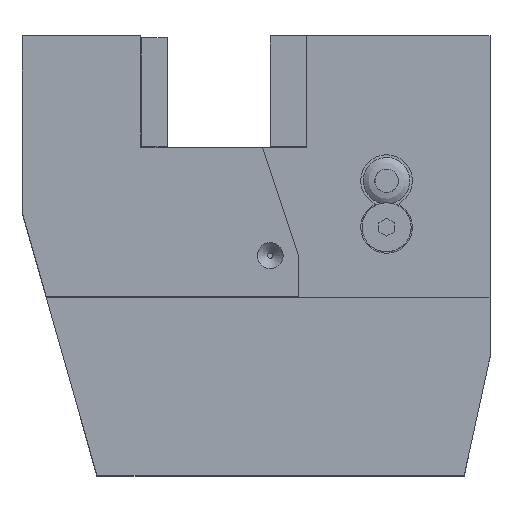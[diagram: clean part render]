
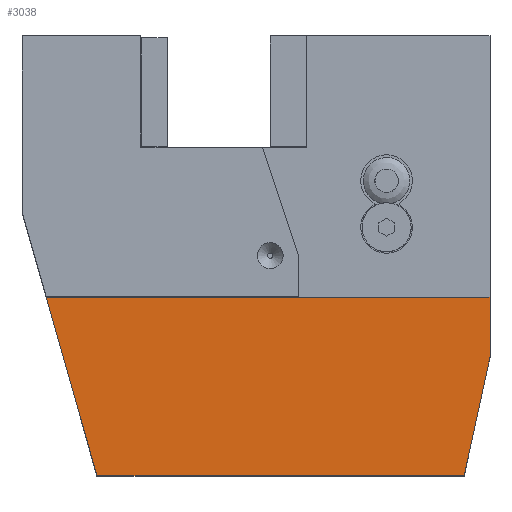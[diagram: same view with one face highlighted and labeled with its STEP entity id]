
A CAD part, top view. The second image highlights one B-rep face of the part: STEP entity #3038.
In plain terms, the highlighted planar face has unit normal (0, 0, 1).
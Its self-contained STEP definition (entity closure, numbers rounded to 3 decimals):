
#206=PLANE('',#3313);
#381=FACE_OUTER_BOUND('',#587,.T.);
#587=EDGE_LOOP('',(#2556,#2557,#2558,#2559,#2560));
#735=LINE('',#4619,#1040);
#754=LINE('',#4677,#1059);
#761=LINE('',#4707,#1066);
#857=LINE('',#4944,#1162);
#858=LINE('',#4945,#1163);
#1040=VECTOR('',#3672,10.);
#1059=VECTOR('',#3723,10.);
#1066=VECTOR('',#3756,10.);
#1162=VECTOR('',#3992,10.);
#1163=VECTOR('',#3993,10.);
#1421=VERTEX_POINT('',#4617);
#1422=VERTEX_POINT('',#4618);
#1444=VERTEX_POINT('',#4674);
#1445=VERTEX_POINT('',#4676);
#1455=VERTEX_POINT('',#4706);
#1736=EDGE_CURVE('',#1421,#1422,#735,.T.);
#1764=EDGE_CURVE('',#1444,#1445,#754,.T.);
#1779=EDGE_CURVE('',#1445,#1455,#761,.T.);
#1893=EDGE_CURVE('',#1422,#1444,#857,.T.);
#1894=EDGE_CURVE('',#1455,#1421,#858,.T.);
#2556=ORIENTED_EDGE('',*,*,#1893,.F.);
#2557=ORIENTED_EDGE('',*,*,#1736,.F.);
#2558=ORIENTED_EDGE('',*,*,#1894,.F.);
#2559=ORIENTED_EDGE('',*,*,#1779,.F.);
#2560=ORIENTED_EDGE('',*,*,#1764,.F.);
#3038=ADVANCED_FACE('',(#381),#206,.F.);
#3313=AXIS2_PLACEMENT_3D('',#4943,#3990,#3991);
#3672=DIRECTION('',(-1.,0.,0.));
#3723=DIRECTION('',(1.,0.,0.));
#3756=DIRECTION('',(0.,-1.,0.));
#3990=DIRECTION('center_axis',(0.,0.,-1.));
#3991=DIRECTION('ref_axis',(-1.,0.,0.));
#3992=DIRECTION('',(-0.273,0.962,0.));
#3993=DIRECTION('',(-0.212,-0.977,0.));
#4617=CARTESIAN_POINT('',(40.25,-42.5,29.5));
#4618=CARTESIAN_POINT('',(-30.75,-42.5,29.5));
#4619=CARTESIAN_POINT('',(-21.452,-42.5,29.5));
#4674=CARTESIAN_POINT('',(-40.559,-8.,29.5));
#4676=CARTESIAN_POINT('',(45.25,-8.,29.5));
#4677=CARTESIAN_POINT('',(45.25,-8.,29.5));
#4706=CARTESIAN_POINT('',(45.25,-19.5,29.5));
#4707=CARTESIAN_POINT('',(45.25,-33.875,29.5));
#4943=CARTESIAN_POINT('Origin',(2.346,-25.25,29.5));
#4944=CARTESIAN_POINT('',(-39.031,-13.373,29.5));
#4945=CARTESIAN_POINT('',(41.185,-38.198,29.5));
